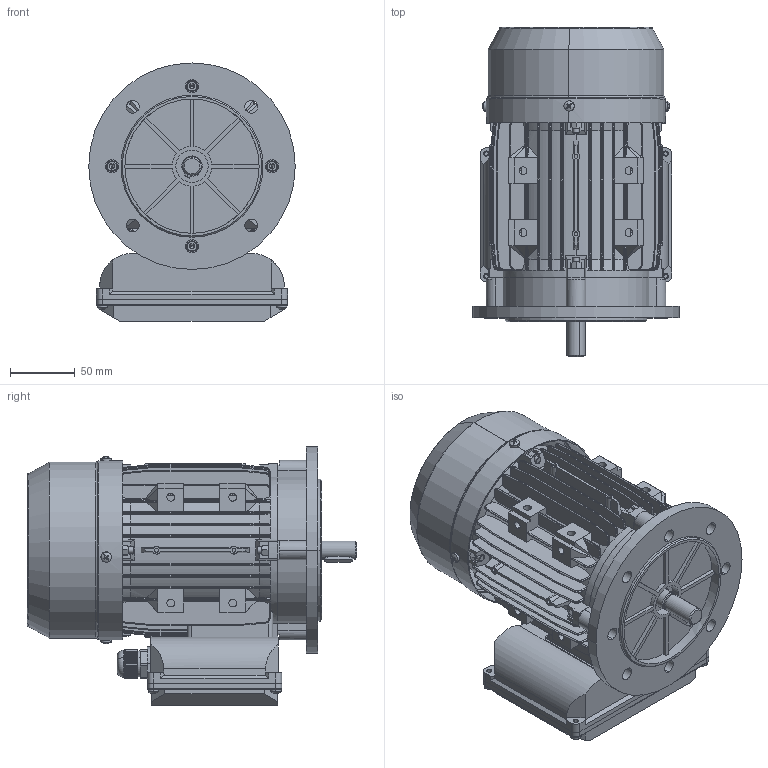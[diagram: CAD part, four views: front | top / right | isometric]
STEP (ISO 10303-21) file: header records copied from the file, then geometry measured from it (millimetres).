
FILE_DESCRIPTION (( 'STEP AP214' ), '1' );
FILE_NAME ('BDM0037.07C405.11.step', '2020-04-23T13:09:18', ( '' ), ( '' ), 'SwSTEP 2.0', 'SolidWorks 2019', '' );
FILE_SCHEMA (( 'AUTOMOTIVE_DESIGN' ));
Length unit declared in the file: millimetre
Products named in the file (1): BDM0037.07C405.11
Bounding box: 160 x 255 x 200 mm (x, y, z)
Volume: 830935.2 mm3; surface area: 540878.8 mm2
Topology: 33 solids, 33 shells, 3311 faces, 8656 edges, 5403 vertices
Faces by surface type: plane 1779, cylinder 947, cone 207, bspline 142, torus 118, sphere 118
Entity records: 116667 total; most frequent: CARTESIAN_POINT 36858, ORIENTED_EDGE 17156, DIRECTION 15741, EDGE_CURVE 8578, AXIS2_PLACEMENT_3D 5410, VERTEX_POINT 5403, LINE 4921, VECTOR 4921
